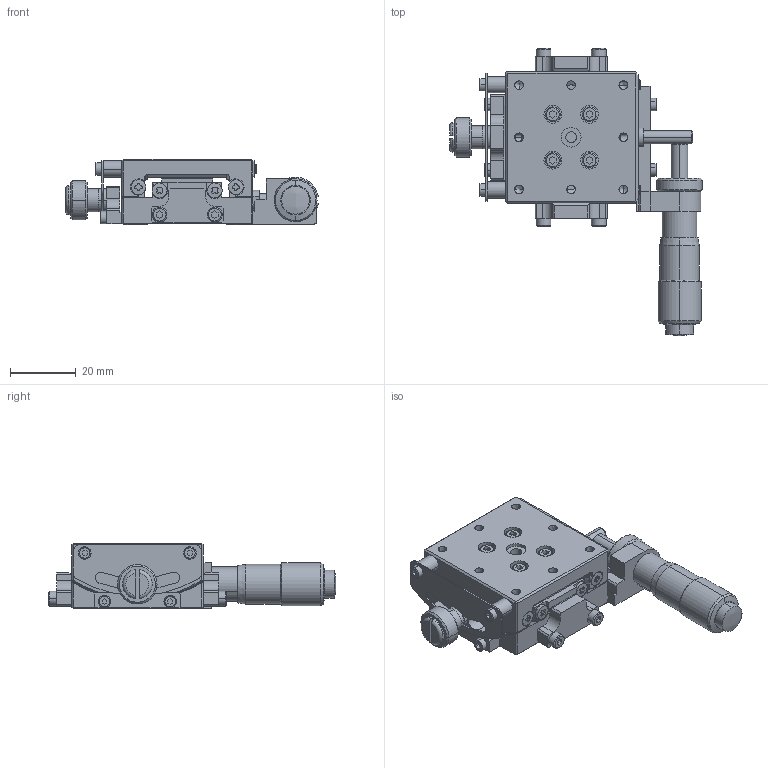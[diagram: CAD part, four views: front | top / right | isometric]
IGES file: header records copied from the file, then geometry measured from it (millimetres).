
Global section: file name: No Iges File Name specified; native system: AutoDesk Inventor R12.0; preprocessor: AutoDesk Inventor Iges Exporter R12.0; date: 20140307.163346; units: millimetre
Bounding box: 76.93 x 87.47 x 20 mm (x, y, z)
Volume: 33183.7 mm3; surface area: 24698.2 mm2
Topology: 17 solids, 32 shells, 1174 faces, 2854 edges, 1809 vertices
Faces by surface type: plane 536, bspline 244, cylinder 187, cone 102, revolution 90, sphere 9, torus 6
